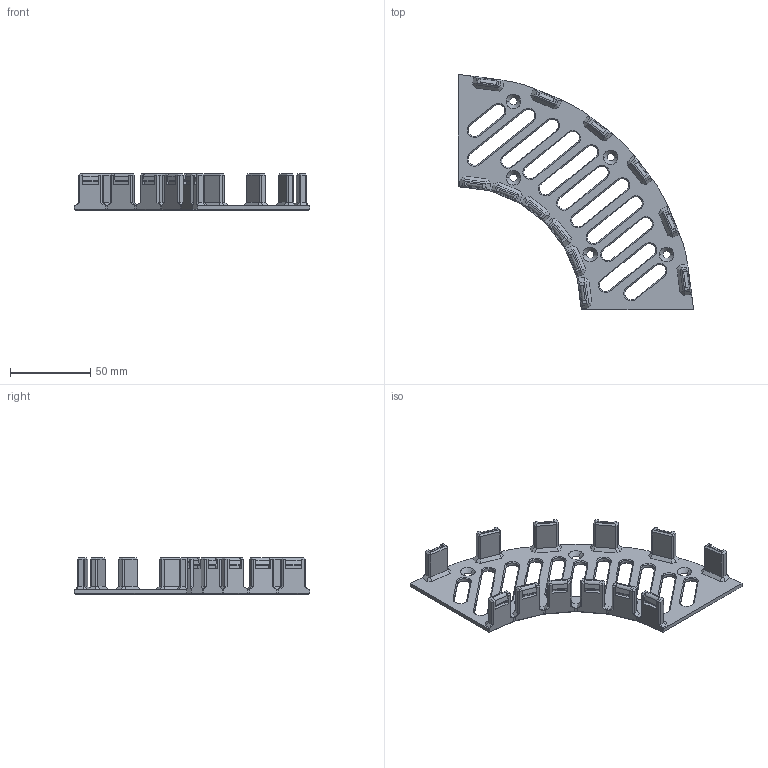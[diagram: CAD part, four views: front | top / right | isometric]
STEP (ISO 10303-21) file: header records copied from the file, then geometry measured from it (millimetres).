
FILE_DESCRIPTION (( 'STEP AP203' ), '1' );
FILE_NAME ('cableTray__corner--screwMount.STEP', '2024-02-14T07:03:36', ( '' ), ( '' ), 'SwSTEP 2.0', 'SolidWorks 2020', '' );
FILE_SCHEMA (( 'CONFIG_CONTROL_DESIGN' ));
Length unit declared in the file: millimetre
Products named in the file (1): cableTray__corner--screwMount
Bounding box: 146.58 x 146.57 x 23 mm (x, y, z)
Volume: 42073.3 mm3; surface area: 29955.9 mm2
Topology: 1 solids, 1 shells, 623 faces, 1498 edges, 877 vertices
Faces by surface type: plane 472, cone 96, cylinder 55
Entity records: 17600 total; most frequent: CARTESIAN_POINT 2999, ORIENTED_EDGE 2996, DIRECTION 2973, EDGE_CURVE 1498, VECTOR 1271, LINE 1271, VERTEX_POINT 877, AXIS2_PLACEMENT_3D 851
